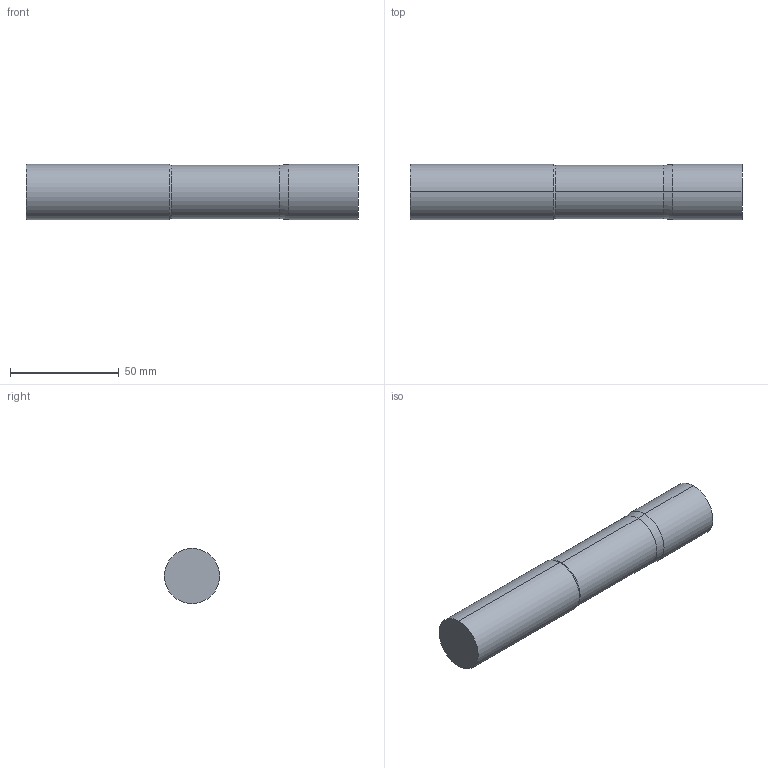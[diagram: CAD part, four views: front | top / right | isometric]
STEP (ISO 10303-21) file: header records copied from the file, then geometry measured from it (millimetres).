
FILE_DESCRIPTION (( 'STEP AP214' ), '1' );
FILE_NAME ('SSIRNL71000-000.STEP', '2025-05-30T14:49:31', ( '' ), ( '' ), 'SwSTEP 2.0', 'SolidWorks 2023', '' );
FILE_SCHEMA (( 'AUTOMOTIVE_DESIGN' ));
Length unit declared in the file: inch
Products named in the file (3): SSI7 Shank Only_SSIRNL71000-000; SSI7 Cut Only_SSIRNL71000-000; SSIRNL71000-000
Assembly tree (2 placements, depth 2):
  SSIRNL71000-000
    SSI7 Cut Only_SSIRNL71000-000
    SSI7 Shank Only_SSIRNL71000-000
Bounding box: 152.4 x 25.4 x 25.4 mm (x, y, z)
Volume: 75142 mm3; surface area: 14033.8 mm2
Topology: 2 solids, 2 shells, 14 faces, 24 edges, 14 vertices
Faces by surface type: cylinder 6, plane 4, cone 4
Entity records: 432 total; most frequent: DIRECTION 76, CARTESIAN_POINT 57, ORIENTED_EDGE 48, AXIS2_PLACEMENT_3D 33, EDGE_CURVE 24, EDGE_LOOP 14, ADVANCED_FACE 14, VERTEX_POINT 14
